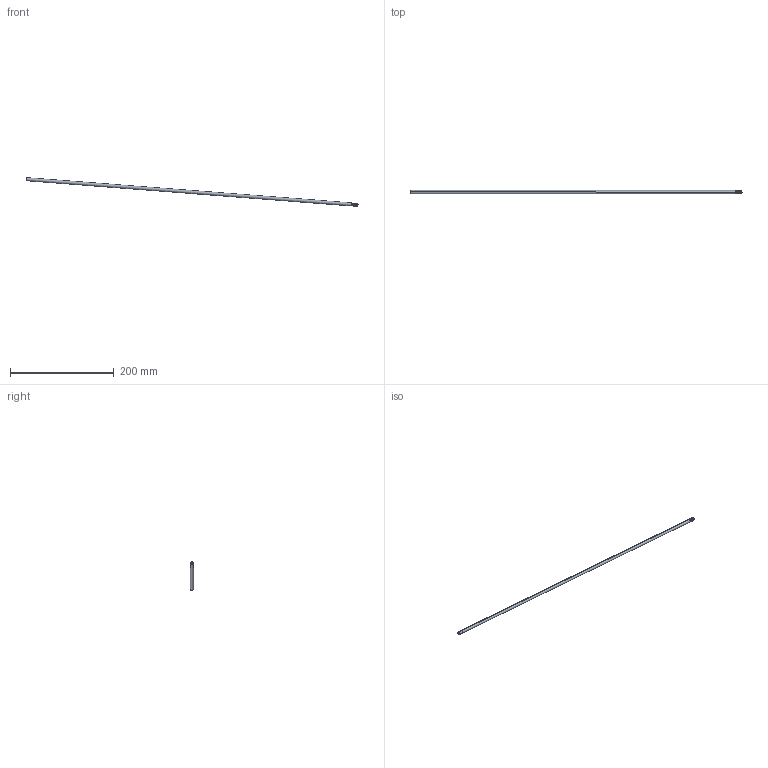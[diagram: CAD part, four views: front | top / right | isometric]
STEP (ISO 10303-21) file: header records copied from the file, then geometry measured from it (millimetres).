
FILE_DESCRIPTION((''),'2;1');
FILE_NAME('0000237295_PRT','2025-11-12T18:36:49',('Wyndorps'),(''),'CREO PARAMETRIC BY PTC INC, 2025010','CREO PARAMETRIC BY PTC INC, 2025010','');
FILE_SCHEMA(('CONFIG_CONTROL_DESIGN'));
Length unit declared in the file: millimetre
Products named in the file (1): 0000237295_PRT
Bounding box: 640.24 x 6 x 55.46 mm (x, y, z)
Volume: 17994 mm3; surface area: 12335.1 mm2
Topology: 1 solids, 2 shells, 44 faces, 108 edges, 67 vertices
Faces by surface type: cylinder 23, bspline 9, cone 6, plane 4, torus 2
Entity records: 6046 total; most frequent: CARTESIAN_POINT 5075, ORIENTED_EDGE 208, DIRECTION 156, EDGE_CURVE 106, VERTEX_POINT 67, AXIS2_PLACEMENT_3D 62, B_SPLINE_CURVE_WITH_KNOTS 48, EDGE_LOOP 47
